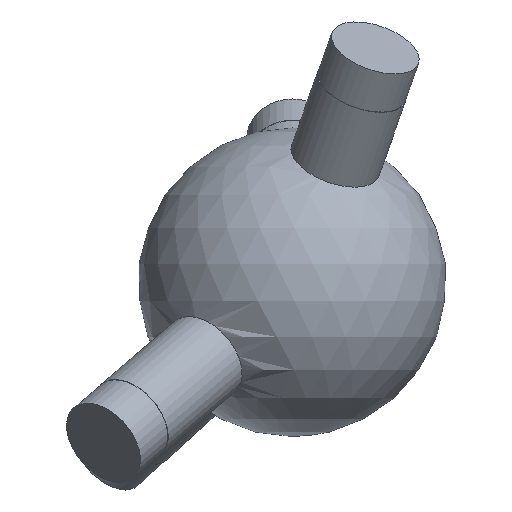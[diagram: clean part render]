
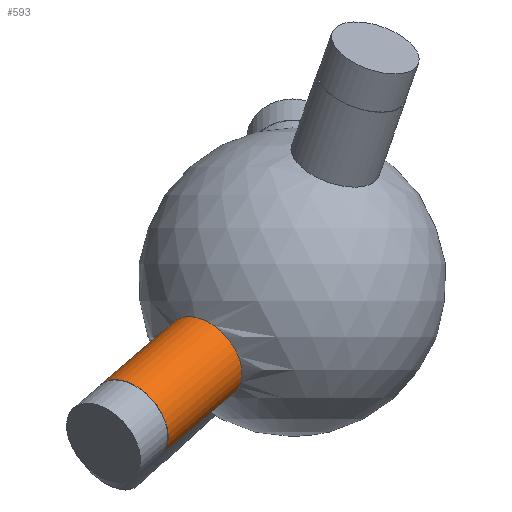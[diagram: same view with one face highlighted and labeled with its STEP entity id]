
A CAD part, left-side view. The second image highlights one B-rep face of the part: STEP entity #593.
In plain terms, the highlighted cylindrical face has radius 6 mm (diameter 12 mm), a full revolution.
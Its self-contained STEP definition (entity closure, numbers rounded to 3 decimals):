
#33 = SPHERICAL_SURFACE('',#34,20.);
#34 = AXIS2_PLACEMENT_3D('',#35,#36,#37);
#35 = CARTESIAN_POINT('',(0.,0.,0.));
#36 = DIRECTION('',(0.,0.,1.));
#37 = DIRECTION('',(1.,0.,-0.));
#291 = EDGE_CURVE('',#292,#292,#294,.T.);
#292 = VERTEX_POINT('',#293);
#293 = CARTESIAN_POINT('',(-16.085,6.965,
    -9.63));
#294 = SURFACE_CURVE('',#295,(#300,#369),.PCURVE_S1.);
#295 = CIRCLE('',#296,6.);
#296 = AXIS2_PLACEMENT_3D('',#297,#298,#299);
#297 = CARTESIAN_POINT('',(-11.961,11.322,
    -9.63));
#298 = DIRECTION('',(-0.627,0.593,-0.505));
#299 = DIRECTION('',(-0.687,-0.726,0.
    ));
#300 = PCURVE('',#33,#301);
#301 = DEFINITIONAL_REPRESENTATION('',(#302),#368);
#302 = B_SPLINE_CURVE_WITH_KNOTS('',8,(#303,#304,#305,#306,#307,#308,
    #309,#310,#311,#312,#313,#314,#315,#316,#317,#318,#319,#320,#321,
    #322,#323,#324,#325,#326,#327,#328,#329,#330,#331,#332,#333,#334,
    #335,#336,#337,#338,#339,#340,#341,#342,#343,#344,#345,#346,#347,
    #348,#349,#350,#351,#352,#353,#354,#355,#356,#357,#358,#359,#360,
    #361,#362,#363,#364,#365,#366,#367),.UNSPECIFIED.,.F.,.F.,(9,7,7,7,7
    ,7,7,7,7,9),(0.,0.785,1.473,2.675,
    3.577,4.254,4.761,5.142,
    5.712,6.283),.UNSPECIFIED.);
#303 = CARTESIAN_POINT('',(2.733,-0.502));
#304 = CARTESIAN_POINT('',(2.727,-0.473));
#305 = CARTESIAN_POINT('',(2.718,-0.445));
#306 = CARTESIAN_POINT('',(2.706,-0.417));
#307 = CARTESIAN_POINT('',(2.691,-0.391));
#308 = CARTESIAN_POINT('',(2.673,-0.366));
#309 = CARTESIAN_POINT('',(2.653,-0.343));
#310 = CARTESIAN_POINT('',(2.631,-0.322));
#311 = CARTESIAN_POINT('',(2.587,-0.287));
#312 = CARTESIAN_POINT('',(2.565,-0.272));
#313 = CARTESIAN_POINT('',(2.542,-0.259));
#314 = CARTESIAN_POINT('',(2.517,-0.248));
#315 = CARTESIAN_POINT('',(2.492,-0.239));
#316 = CARTESIAN_POINT('',(2.466,-0.232));
#317 = CARTESIAN_POINT('',(2.44,-0.228));
#318 = CARTESIAN_POINT('',(2.368,-0.222));
#319 = CARTESIAN_POINT('',(2.321,-0.225));
#320 = CARTESIAN_POINT('',(2.275,-0.235));
#321 = CARTESIAN_POINT('',(2.231,-0.251));
#322 = CARTESIAN_POINT('',(2.189,-0.274));
#323 = CARTESIAN_POINT('',(2.152,-0.303));
#324 = CARTESIAN_POINT('',(2.119,-0.336));
#325 = CARTESIAN_POINT('',(2.071,-0.402));
#326 = CARTESIAN_POINT('',(2.054,-0.432));
#327 = CARTESIAN_POINT('',(2.041,-0.464));
#328 = CARTESIAN_POINT('',(2.031,-0.497));
#329 = CARTESIAN_POINT('',(2.026,-0.531));
#330 = CARTESIAN_POINT('',(2.025,-0.565));
#331 = CARTESIAN_POINT('',(2.03,-0.599));
#332 = CARTESIAN_POINT('',(2.047,-0.657));
#333 = CARTESIAN_POINT('',(2.058,-0.681));
#334 = CARTESIAN_POINT('',(2.072,-0.704));
#335 = CARTESIAN_POINT('',(2.09,-0.726));
#336 = CARTESIAN_POINT('',(2.111,-0.746));
#337 = CARTESIAN_POINT('',(2.135,-0.765));
#338 = CARTESIAN_POINT('',(2.162,-0.781));
#339 = CARTESIAN_POINT('',(2.216,-0.805));
#340 = CARTESIAN_POINT('',(2.24,-0.814));
#341 = CARTESIAN_POINT('',(2.266,-0.822));
#342 = CARTESIAN_POINT('',(2.293,-0.827));
#343 = CARTESIAN_POINT('',(2.32,-0.832));
#344 = CARTESIAN_POINT('',(2.349,-0.834));
#345 = CARTESIAN_POINT('',(2.377,-0.835));
#346 = CARTESIAN_POINT('',(2.427,-0.832));
#347 = CARTESIAN_POINT('',(2.448,-0.831));
#348 = CARTESIAN_POINT('',(2.468,-0.828));
#349 = CARTESIAN_POINT('',(2.489,-0.824));
#350 = CARTESIAN_POINT('',(2.509,-0.819));
#351 = CARTESIAN_POINT('',(2.528,-0.813));
#352 = CARTESIAN_POINT('',(2.546,-0.807));
#353 = CARTESIAN_POINT('',(2.59,-0.788));
#354 = CARTESIAN_POINT('',(2.614,-0.776));
#355 = CARTESIAN_POINT('',(2.637,-0.761));
#356 = CARTESIAN_POINT('',(2.656,-0.745));
#357 = CARTESIAN_POINT('',(2.674,-0.728));
#358 = CARTESIAN_POINT('',(2.689,-0.71));
#359 = CARTESIAN_POINT('',(2.701,-0.69));
#360 = CARTESIAN_POINT('',(2.722,-0.651));
#361 = CARTESIAN_POINT('',(2.73,-0.63));
#362 = CARTESIAN_POINT('',(2.735,-0.609));
#363 = CARTESIAN_POINT('',(2.739,-0.588));
#364 = CARTESIAN_POINT('',(2.74,-0.566));
#365 = CARTESIAN_POINT('',(2.74,-0.545));
#366 = CARTESIAN_POINT('',(2.737,-0.523));
#367 = CARTESIAN_POINT('',(2.733,-0.502));
#368 = ( GEOMETRIC_REPRESENTATION_CONTEXT(2) 
PARAMETRIC_REPRESENTATION_CONTEXT() REPRESENTATION_CONTEXT('2D SPACE',''
  ) );
#369 = PCURVE('',#370,#375);
#370 = CYLINDRICAL_SURFACE('',#371,6.);
#371 = AXIS2_PLACEMENT_3D('',#372,#373,#374);
#372 = CARTESIAN_POINT('',(0.,0.,0.));
#373 = DIRECTION('',(-0.627,0.593,-0.505));
#374 = DIRECTION('',(-0.687,-0.726,0.
    ));
#375 = DEFINITIONAL_REPRESENTATION('',(#376),#380);
#376 = LINE('',#377,#378);
#377 = CARTESIAN_POINT('',(0.,19.079));
#378 = VECTOR('',#379,1.);
#379 = DIRECTION('',(1.,0.));
#380 = ( GEOMETRIC_REPRESENTATION_CONTEXT(2) 
PARAMETRIC_REPRESENTATION_CONTEXT() REPRESENTATION_CONTEXT('2D SPACE',''
  ) );
#593 = ADVANCED_FACE('',(#594),#370,.T.);
#594 = FACE_BOUND('',#595,.T.);
#595 = EDGE_LOOP('',(#596,#619,#646,#647));
#596 = ORIENTED_EDGE('',*,*,#597,.T.);
#597 = EDGE_CURVE('',#292,#598,#600,.T.);
#598 = VERTEX_POINT('',#599);
#599 = CARTESIAN_POINT('',(-26.212,16.551,
    -17.784));
#600 = SEAM_CURVE('',#601,(#605,#612),.PCURVE_S1.);
#601 = LINE('',#602,#603);
#602 = CARTESIAN_POINT('',(-4.125,-4.357,
    0.));
#603 = VECTOR('',#604,1.);
#604 = DIRECTION('',(-0.627,0.593,-0.505));
#605 = PCURVE('',#370,#606);
#606 = DEFINITIONAL_REPRESENTATION('',(#607),#611);
#607 = LINE('',#608,#609);
#608 = CARTESIAN_POINT('',(6.283,-0.));
#609 = VECTOR('',#610,1.);
#610 = DIRECTION('',(0.,1.));
#611 = ( GEOMETRIC_REPRESENTATION_CONTEXT(2) 
PARAMETRIC_REPRESENTATION_CONTEXT() REPRESENTATION_CONTEXT('2D SPACE',''
  ) );
#612 = PCURVE('',#370,#613);
#613 = DEFINITIONAL_REPRESENTATION('',(#614),#618);
#614 = LINE('',#615,#616);
#615 = CARTESIAN_POINT('',(0.,-0.));
#616 = VECTOR('',#617,1.);
#617 = DIRECTION('',(0.,1.));
#618 = ( GEOMETRIC_REPRESENTATION_CONTEXT(2) 
PARAMETRIC_REPRESENTATION_CONTEXT() REPRESENTATION_CONTEXT('2D SPACE',''
  ) );
#619 = ORIENTED_EDGE('',*,*,#620,.F.);
#620 = EDGE_CURVE('',#598,#598,#621,.T.);
#621 = SURFACE_CURVE('',#622,(#627,#634),.PCURVE_S1.);
#622 = CIRCLE('',#623,6.);
#623 = AXIS2_PLACEMENT_3D('',#624,#625,#626);
#624 = CARTESIAN_POINT('',(-22.087,20.909,
    -17.784));
#625 = DIRECTION('',(-0.627,0.593,-0.505));
#626 = DIRECTION('',(-0.687,-0.726,0.)
  );
#627 = PCURVE('',#370,#628);
#628 = DEFINITIONAL_REPRESENTATION('',(#629),#633);
#629 = LINE('',#630,#631);
#630 = CARTESIAN_POINT('',(0.,35.232));
#631 = VECTOR('',#632,1.);
#632 = DIRECTION('',(1.,0.));
#633 = ( GEOMETRIC_REPRESENTATION_CONTEXT(2) 
PARAMETRIC_REPRESENTATION_CONTEXT() REPRESENTATION_CONTEXT('2D SPACE',''
  ) );
#634 = PCURVE('',#635,#640);
#635 = PLANE('',#636);
#636 = AXIS2_PLACEMENT_3D('',#637,#638,#639);
#637 = CARTESIAN_POINT('',(-22.087,20.909,
    -17.784));
#638 = DIRECTION('',(-0.627,0.593,-0.505));
#639 = DIRECTION('',(-0.687,-0.726,0.
    ));
#640 = DEFINITIONAL_REPRESENTATION('',(#641),#645);
#641 = CIRCLE('',#642,6.);
#642 = AXIS2_PLACEMENT_2D('',#643,#644);
#643 = CARTESIAN_POINT('',(0.,0.));
#644 = DIRECTION('',(1.,0.));
#645 = ( GEOMETRIC_REPRESENTATION_CONTEXT(2) 
PARAMETRIC_REPRESENTATION_CONTEXT() REPRESENTATION_CONTEXT('2D SPACE',''
  ) );
#646 = ORIENTED_EDGE('',*,*,#597,.F.);
#647 = ORIENTED_EDGE('',*,*,#291,.T.);
